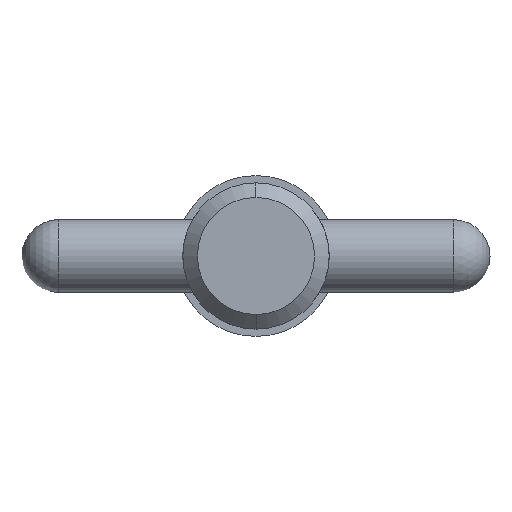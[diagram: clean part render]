
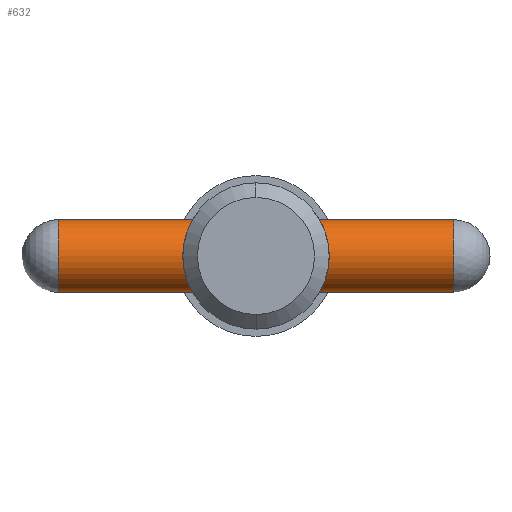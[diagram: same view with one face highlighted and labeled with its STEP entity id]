
A CAD part, left-side view. The second image highlights one B-rep face of the part: STEP entity #632.
In plain terms, the highlighted cylindrical face has radius 1.98 mm (diameter 3.96 mm), a partial arc.
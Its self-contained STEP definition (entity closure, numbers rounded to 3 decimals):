
#9 = EDGE_CURVE ( 'NONE', #987, #497, #93, .T. ) ;
#18 = VERTEX_POINT ( 'NONE', #768 ) ;
#28 = DIRECTION ( 'NONE',  ( 0., -1., 0. ) ) ;
#30 = VERTEX_POINT ( 'NONE', #440 ) ;
#39 = ORIENTED_EDGE ( 'NONE', *, *, #484, .T. ) ;
#90 = DIRECTION ( 'NONE',  ( 0., -1., 0. ) ) ;
#93 = CIRCLE ( 'NONE', #1018, 1.98 ) ;
#156 = DIRECTION ( 'NONE',  ( 0., 0., -1. ) ) ;
#181 = CARTESIAN_POINT ( 'NONE',  ( 0., 12.7, -1.98 ) ) ;
#185 = VECTOR ( 'NONE', #487, 1000. ) ;
#254 = EDGE_CURVE ( 'NONE', #987, #30, #418, .T. ) ;
#287 = DIRECTION ( 'NONE',  ( 0., 0., -1. ) ) ;
#288 = CARTESIAN_POINT ( 'NONE',  ( 0., 10.72, 0. ) ) ;
#345 = ORIENTED_EDGE ( 'NONE', *, *, #423, .T. ) ;
#378 = AXIS2_PLACEMENT_3D ( 'NONE', #404, #90, #156 ) ;
#395 = CARTESIAN_POINT ( 'NONE',  ( 0., 10.72, 1.98 ) ) ;
#404 = CARTESIAN_POINT ( 'NONE',  ( 0., 12.7, 0. ) ) ;
#417 = ORIENTED_EDGE ( 'NONE', *, *, #254, .F. ) ;
#418 = LINE ( 'NONE', #804, #621 ) ;
#419 = EDGE_LOOP ( 'NONE', ( #417, #442, #345, #39 ) ) ;
#423 = EDGE_CURVE ( 'NONE', #497, #18, #744, .T. ) ;
#440 = CARTESIAN_POINT ( 'NONE',  ( 0., -10.72, 1.98 ) ) ;
#442 = ORIENTED_EDGE ( 'NONE', *, *, #9, .T. ) ;
#484 = EDGE_CURVE ( 'NONE', #18, #30, #978, .T. ) ;
#487 = DIRECTION ( 'NONE',  ( 0., -1., 0. ) ) ;
#497 = VERTEX_POINT ( 'NONE', #515 ) ;
#515 = CARTESIAN_POINT ( 'NONE',  ( 0., 10.72, -1.98 ) ) ;
#591 = DIRECTION ( 'NONE',  ( 0., -1., 0. ) ) ;
#621 = VECTOR ( 'NONE', #28, 1000. ) ;
#632 = ADVANCED_FACE ( 'NONE', ( #1015 ), #857, .T. ) ;
#744 = LINE ( 'NONE', #181, #185 ) ;
#768 = CARTESIAN_POINT ( 'NONE',  ( 0., -10.72, -1.98 ) ) ;
#774 = CARTESIAN_POINT ( 'NONE',  ( 0., -10.72, 0. ) ) ;
#804 = CARTESIAN_POINT ( 'NONE',  ( 0., 12.7, 1.98 ) ) ;
#847 = DIRECTION ( 'NONE',  ( 0., 0., -1. ) ) ;
#855 = AXIS2_PLACEMENT_3D ( 'NONE', #774, #904, #287 ) ;
#857 = CYLINDRICAL_SURFACE ( 'NONE', #378, 1.98 ) ;
#904 = DIRECTION ( 'NONE',  ( 0., 1., 0. ) ) ;
#978 = CIRCLE ( 'NONE', #855, 1.98 ) ;
#987 = VERTEX_POINT ( 'NONE', #395 ) ;
#1015 = FACE_OUTER_BOUND ( 'NONE', #419, .T. ) ;
#1018 = AXIS2_PLACEMENT_3D ( 'NONE', #288, #591, #847 ) ;
